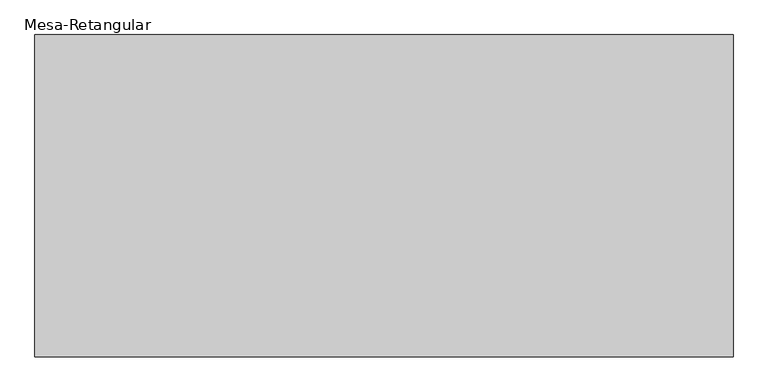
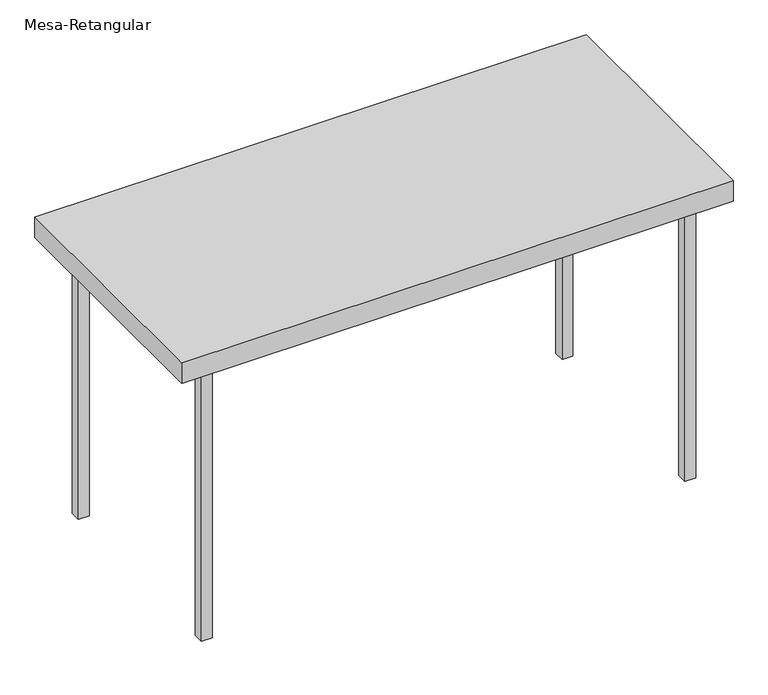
"""IFC4 building model written with IfcOpenShell, lengths in millimetres: furniture geometry, Mesa-Retangular : Mesa aço inox 60x130cm."""

from ifc_helpers import new_model, si_unit, frame, origin, origin_with_axes, place, context, project, spatial, polyline, outline, extrude, source, transform, mapped, element, save


def mesa_retangular_e800c27d(model_context):
    return source(origin(), model_context, "Body", "SweptSolid", [
        extrude(outline(polyline([(-582.8946305, 238.2145104), (-582.8946305, 263.6145104), (-557.4946305, 263.6145104), (-557.4946305, 238.2145104), (-582.8946305, 238.2145104)])), origin_with_axes(), (0.0, 0.0, 1.0), 689.2),
        extrude(outline(polyline([(-582.8946305, -238.2145104), (-557.4946305, -238.2145104), (-557.4946305, -263.6145104), (-582.8946305, -263.6145104), (-582.8946305, -238.2145104)])), origin_with_axes(), (0.0, 0.0, 1.0), 689.2),
        extrude(outline(polyline([(582.8946305, 238.2145104), (557.4946305, 238.2145104), (557.4946305, 263.6145104), (582.8946305, 263.6145104), (582.8946305, 238.2145104)])), origin_with_axes(), (0.0, 0.0, 1.0), 689.2),
        extrude(outline(polyline([(582.8946305, -238.2145104), (582.8946305, -263.6145104), (557.4946305, -263.6145104), (557.4946305, -238.2145104), (582.8946305, -238.2145104)])), origin_with_axes(), (0.0, 0.0, 1.0), 689.2),
        extrude(outline(polyline([(650.0, 300.0), (650.0, -300.0), (-650.0, -300.0), (-650.0, 300.0), (650.0, 300.0)])), frame((0.0, 0.0, 689.2), z_axis=(0.0, 0.0, 1.0), x_axis=(1.0, 0.0, 0.0)), (0.0, 0.0, 1.0), 50.8),
    ])


if __name__ == "__main__":
    model = new_model("IFC4")
    model_context = context("Model", 3, world=origin())
    ifc_project = project(units=[si_unit("LENGTHUNIT", "METRE", prefix="MILLI")], contexts=[model_context])
    site = spatial("IfcSite", under=ifc_project)
    building = spatial("IfcBuilding", under=site)
    placement = place(None, origin())
    mesa_retangular_shape = mesa_retangular_e800c27d(model_context)
    element("IfcFurniture", 1, ObjectType="Mesa-Retangular : Mesa aço inox 60x130cm", at=placement, inside=building, context=model_context, shape_type="MappedRepresentation", body=[
        mapped(mesa_retangular_shape, transform((0.0, 0.0, 0.0), x_axis=(1.0, 0.0, 0.0), y_axis=(0.0, 1.0, 0.0), z_axis=(0.0, 0.0, 1.0))),
    ])
    save(model, "model.ifc")
